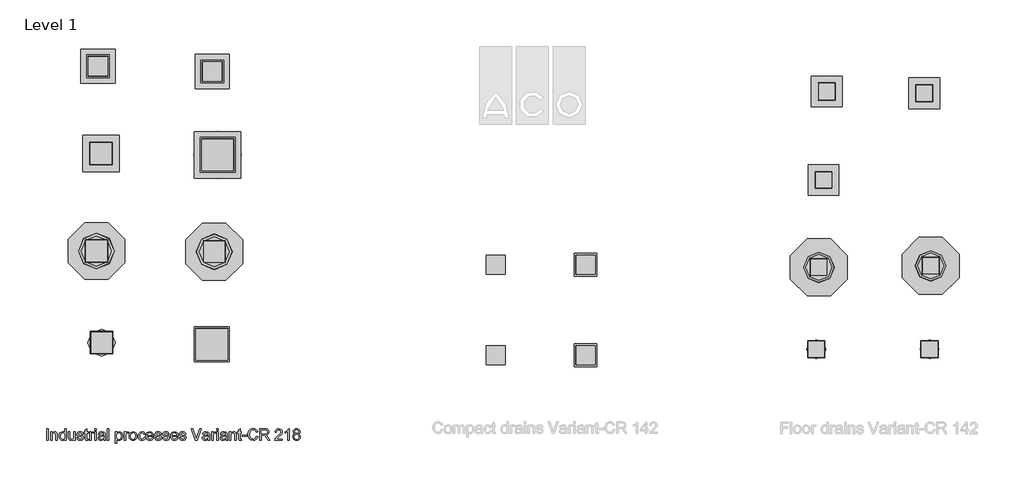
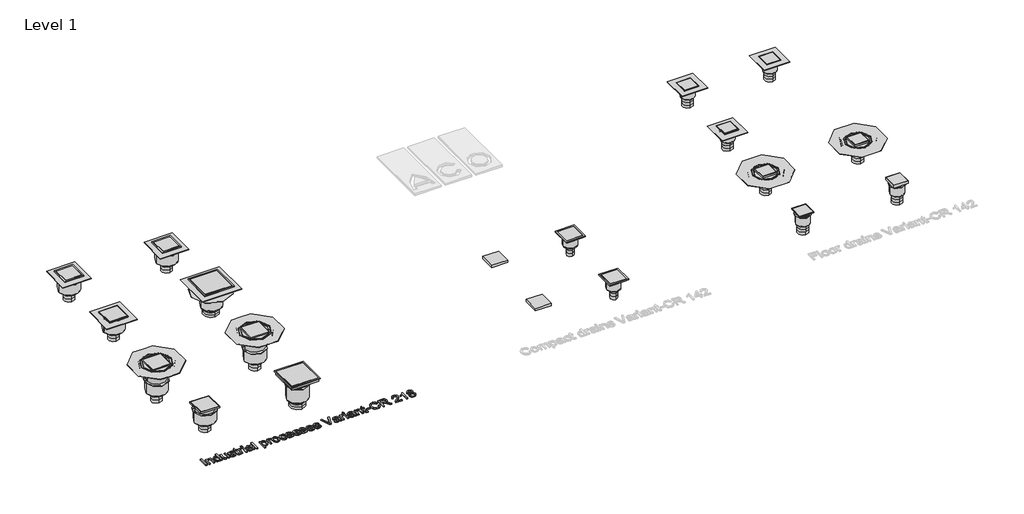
# One storey, part 1 of 2: 38 sanitary terminals, 1 proxy.
"""IFC4 building model written with IfcOpenShell, lengths in millimetres."""

from ifc_helpers import new_model, si_unit, origin, origin_with_axes, place, context, project, spatial, polyline, outline, extrude, transform, mapped, element, save
from components import std_nested_e5b45800, std_nested_f98b17df, std_nested_5ceb5ad1, std_nested_ddfe541a, std_nested_5c42c778, std_nested_f4f34d1d, std_nested_0d080e31, std_nested_b2a49f5a, std_nested_ba9d458a, std_nested_aa14c2f5, std_nested_65d9dade, std_nested_1282a145, std_nested_af68e37f, std_nested_4df2d76e, std_nested_a32fa6b1, std_nested_5476db3b, std_nested_25571da1, std_nested_8932cf48, std_nested_c7e06109

model = new_model("IFC4")

# Units and contexts
model_context = context("Model", 3, world=origin())
ifc_project = project(units=[si_unit("LENGTHUNIT", "METRE", prefix="MILLI")], contexts=[model_context])

# Site, building, storey
site = spatial("IfcSite", under=ifc_project)
building = spatial("IfcBuilding", under=site)
storey = spatial("IfcBuildingStorey", under=building, Name="Level 1", Elevation=0.0)

# Proxy
placement = place(None, origin())
element("IfcBuildingElementProxy", 1, Name="100mm ACO", ObjectType="100mm ACO", at=placement, inside=storey, context=model_context, shape_type="SweptSolid", body=[
    extrude(outline(polyline([(-2101.6641327, -5750.0432082), (-2114.7028622, -5750.0432082), (-2114.7028622, -5649.4587229), (-2101.6641327, -5649.4587229), (-2101.6641327, -5750.0432082)])), origin_with_axes(), (0.0, 0.0, 1.0), 10.0),
    extrude(outline(polyline([(-2019.7064039, -5750.0432082), (-2032.7451335, -5750.0432082), (-2032.7451335, -5704.815115), (-2036.6305585, -5689.1278935), (-2047.4428085, -5684.8495603), (-2057.5274509, -5687.5853652), (-2064.2796502, -5695.2980066), (-2066.2732952, -5709.3844912), (-2066.2732952, -5750.0432082), (-2079.3120248, -5750.0432082), (-2079.3120248, -5677.3988577), (-2068.1359709, -5677.3988577), (-2068.1359709, -5687.4980523), (-2058.1822979, -5678.5193735), (-2044.8525252, -5675.5361821), (-2033.4145325, -5677.6025879), (-2024.5668232, -5683.7872531), (-2020.5358766, -5692.5767539), (-2019.7064039, -5705.193471), (-2019.7064039, -5750.0432082)])), origin_with_axes(), (0.0, 0.0, 1.0), 10.0),
    extrude(outline(polyline([(-1941.4740264, -5750.0432082), (-1954.512756, -5750.0432082), (-1954.512756, -5741.8357936), (-1962.9166247, -5749.3883613), (-1974.3618934, -5751.9058839), (-1986.2982974, -5749.2501158), (-1996.0882587, -5741.2828118), (-2002.6258137, -5729.080831), (-2004.8049986, -5713.721033), (-2002.7167646, -5697.8882899), (-1996.4520625, -5685.7808981), (-1986.7603282, -5678.0973611), (-1974.3909977, -5675.5361821), (-1963.040318, -5677.8354223), (-1954.7746948, -5684.7331431), (-1954.512756, -5649.4587229), (-1941.4740264, -5649.4587229), (-1941.4740264, -5750.0432082)]), holes=[polyline([(-1972.8484695, -5742.5925056), (-1965.7542946, -5740.8753515), (-1959.8388442, -5735.7238891), (-1955.844278, -5727.0799099), (-1954.512756, -5714.8852052), (-1959.3877274, -5692.9987663), (-1965.321368, -5686.8868618), (-1973.372347, -5684.8495603), (-1981.3651173, -5686.8432054), (-1987.1241321, -5692.8241405), (-1991.7662691, -5713.7501373), (-1989.2632987, -5729.5974325), (-1982.278265, -5739.3328232), (-1972.8484695, -5742.5925056)])]), origin_with_axes(), (0.0, 0.0, 1.0), 10.0),
    extrude(outline(polyline([(-1863.2416489, -5750.0432082), (-1874.4177029, -5750.0432082), (-1874.4177029, -5739.4783447), (-1884.7206276, -5748.7989991), (-1897.7593572, -5751.9058839), (-1911.962259, -5748.3697106), (-1920.6644468, -5738.6343198), (-1922.8472699, -5722.539638), (-1922.8472699, -5677.3988577), (-1909.8085403, -5677.3988577), (-1909.8085403, -5718.6105566), (-1908.9063068, -5732.7843541), (-1904.191409, -5739.8275964), (-1895.1108652, -5742.5925056), (-1882.2904179, -5737.6447734), (-1877.7828884, -5730.0485492), (-1876.2803785, -5717.1553412), (-1876.2803785, -5677.3988577), (-1863.2416489, -5677.3988577), (-1863.2416489, -5750.0432082)])), origin_with_axes(), (0.0, 0.0, 1.0), 10.0),
    extrude(outline(polyline([(-1803.636028, -5697.8882899), (-1808.4527908, -5688.1092427), (-1819.5851883, -5684.8495603), (-1830.9649724, -5687.6435738), (-1835.3015141, -5695.7636755), (-1832.4347399, -5702.9524393), (-1818.9157892, -5706.8524165), (-1801.0894011, -5711.0434367), (-1791.9943052, -5717.4027278), (-1788.7346228, -5728.797064), (-1790.7573721, -5737.7793808), (-1796.8256201, -5745.2264454), (-1806.2772439, -5750.2360242), (-1818.4501203, -5751.9058839), (-1830.9977147, -5750.501601), (-1840.4675286, -5746.2887526), (-1846.8668382, -5739.2746146), (-1850.2029194, -5729.4664631), (-1837.1641898, -5727.6911004), (-1831.5325064, -5738.8817064), (-1818.4501203, -5742.5925056), (-1806.0807898, -5738.7361849), (-1801.7733524, -5729.3500459), (-1803.7087888, -5723.3400065), (-1808.5401038, -5719.9493547), (-1822.2045759, -5717.038924), (-1835.4579498, -5713.7937937), (-1843.2615421, -5709.1807611), (-1848.3402437, -5696.5203875), (-1846.4593779, -5688.1856415), (-1840.8167803, -5681.4589085), (-1831.9945372, -5677.0168637), (-1820.5747347, -5675.5361821), (-1808.5728461, -5676.8313237), (-1799.5759772, -5680.7167487), (-1793.5841279, -5687.185181), (-1790.5972984, -5696.2293444), (-1803.636028, -5697.8882899)])), origin_with_axes(), (0.0, 0.0, 1.0), 10.0),
    extrude(outline(polyline([(-1747.7557584, -5751.061859), (-1756.8945108, -5751.9058839), (-1768.5507858, -5749.0100053), (-1773.0182969, -5741.6611678), (-1773.8332175, -5729.2627329), (-1773.8332175, -5686.712236), (-1783.1465958, -5686.712236), (-1783.1465958, -5677.3988577), (-1773.8332175, -5677.3988577), (-1773.8332175, -5658.946727), (-1760.794488, -5651.3213985), (-1760.794488, -5677.3988577), (-1749.618434, -5677.3988577), (-1749.618434, -5686.712236), (-1760.794488, -5686.712236), (-1760.794488, -5731.8821206), (-1759.7467329, -5740.1477438), (-1754.4206447, -5742.5925056), (-1749.3564953, -5742.5925056), (-1747.7557584, -5751.061859)])), origin_with_axes(), (0.0, 0.0, 1.0), 10.0),
    extrude(outline(polyline([(-1697.4635157, -5678.3884041), (-1701.5381187, -5686.712236), (-1710.094785, -5684.8495603), (-1715.9229225, -5686.4866776), (-1720.135771, -5691.3980294), (-1723.5409749, -5709.7337429), (-1723.5409749, -5750.0432082), (-1736.5797045, -5750.0432082), (-1736.5797045, -5677.3988577), (-1725.4036505, -5677.3988577), (-1725.4036505, -5688.1674513), (-1718.433169, -5678.6939994), (-1709.9492635, -5675.5361821), (-1697.4635157, -5678.3884041)])), origin_with_axes(), (0.0, 0.0, 1.0), 10.0),
    extrude(outline(polyline([(-1676.9740835, -5662.4974525), (-1690.0128131, -5662.4974525), (-1690.0128131, -5649.4587229), (-1676.9740835, -5649.4587229), (-1676.9740835, -5662.4974525)])), origin_with_axes(), (0.0, 0.0, 1.0), 10.0),
    extrude(outline(polyline([(-1676.9740835, -5750.0432082), (-1690.0128131, -5750.0432082), (-1690.0128131, -5677.3988577), (-1676.9740835, -5677.3988577), (-1676.9740835, -5750.0432082)])), origin_with_axes(), (0.0, 0.0, 1.0), 10.0),
    extrude(outline(polyline([(-1595.0163548, -5750.0432082), (-1608.0550843, -5750.0432082), (-1611.7804356, -5741.2537075), (-1624.3462202, -5749.2428398), (-1637.8869991, -5751.9058839), (-1647.9316231, -5750.4506685), (-1655.59697, -5746.0850224), (-1660.4537512, -5739.3328232), (-1662.0726783, -5730.7179483), (-1660.4864936, -5722.3613741), (-1655.7279394, -5715.6273651), (-1647.0475798, -5710.7050991), (-1633.6959789, -5707.7837543), (-1622.2870905, -5706.0374959), (-1611.7804356, -5703.4763169), (-1612.1151352, -5695.3998716), (-1614.0651237, -5690.4957959), (-1619.2602426, -5686.4066408), (-1628.8937682, -5684.8495603), (-1641.0448164, -5688.0073776), (-1647.1712731, -5699.7509656), (-1660.2100026, -5698.1502287), (-1656.6338109, -5688.2838686), (-1649.9216301, -5681.2115219), (-1640.0807363, -5676.955017), (-1627.1184055, -5675.5361821), (-1607.7494891, -5679.421607), (-1600.153265, -5688.7931939), (-1598.7417061, -5702.923335), (-1598.7417061, -5719.5418944), (-1598.1887242, -5739.9149093), (-1595.0163548, -5750.0432082)]), holes=[polyline([(-1611.7804356, -5717.4463843), (-1611.7804356, -5712.7896951), (-1635.1948507, -5718.1448876), (-1645.5741742, -5722.2267667), (-1649.0339487, -5730.5142182), (-1645.3085974, -5739.1873017), (-1634.5691081, -5742.5925056), (-1618.6636043, -5736.8880614), (-1613.5012278, -5729.17542), (-1611.7804356, -5717.4463843)])]), origin_with_axes(), (0.0, 0.0, 1.0), 10.0),
    extrude(outline(polyline([(-1567.0762199, -5750.0432082), (-1580.1149495, -5750.0432082), (-1580.1149495, -5649.4587229), (-1567.0762199, -5649.4587229), (-1567.0762199, -5750.0432082)])), origin_with_axes(), (0.0, 0.0, 1.0), 10.0),
    extrude(outline(polyline([(-1496.1635757, -5686.1592541), (-1487.657842, -5678.1919501), (-1475.9215301, -5675.5361821), (-1463.5230953, -5678.1410175), (-1454.0350912, -5685.955524), (-1448.0104996, -5697.9537746), (-1446.0023024, -5713.1098425), (-1448.2724384, -5729.0917451), (-1455.0828462, -5741.4137812), (-1465.196593, -5749.2828582), (-1477.3767455, -5751.9058839), (-1487.8106396, -5749.7667173), (-1495.9452934, -5743.3492176), (-1496.2945451, -5777.983343), (-1509.3332747, -5777.983343), (-1509.3332747, -5677.3988577), (-1496.2945451, -5677.3988577), (-1496.1635757, -5686.1592541)]), holes=[polyline([(-1478.8028565, -5742.5925056), (-1470.984712, -5740.7552962), (-1464.6436111, -5735.2436681), (-1460.4416768, -5726.0940015), (-1459.041032, -5713.342677), (-1460.3907442, -5701.1952668), (-1464.439881, -5692.2275022), (-1470.5918039, -5686.6940458), (-1478.2498747, -5684.8495603), (-1486.1771603, -5686.905052), (-1492.5546416, -5693.0715271), (-1496.756576, -5702.5122367), (-1498.1572207, -5714.390432), (-1496.8147846, -5726.5742226), (-1492.7874761, -5735.4182939), (-1486.6064489, -5740.7989527), (-1478.8028565, -5742.5925056)])]), origin_with_axes(), (0.0, 0.0, 1.0), 10.0),
    extrude(outline(polyline([(-1391.9847085, -5678.3884041), (-1396.0593115, -5686.712236), (-1404.6159777, -5684.8495603), (-1410.4441152, -5686.4866776), (-1414.6569637, -5691.3980294), (-1418.0621676, -5709.7337429), (-1418.0621676, -5750.0432082), (-1431.1008972, -5750.0432082), (-1431.1008972, -5677.3988577), (-1419.9248433, -5677.3988577), (-1419.9248433, -5688.1674513), (-1412.9543617, -5678.6939994), (-1404.4704562, -5675.5361821), (-1391.9847085, -5678.3884041)])), origin_with_axes(), (0.0, 0.0, 1.0), 10.0),
    extrude(outline(polyline([(-1354.7602997, -5675.5361821), (-1341.5069258, -5677.9445635), (-1330.7346942, -5685.1697077), (-1323.5859488, -5696.8332588), (-1321.2030336, -5712.5568607), (-1323.7824028, -5730.9362306), (-1331.5205105, -5742.9999659), (-1342.4891962, -5749.6794044), (-1354.7602997, -5751.9058839), (-1367.4243113, -5749.6175577), (-1378.291132, -5742.7525793), (-1385.7673009, -5730.9180404), (-1388.2593572, -5713.721033), (-1385.8509757, -5696.9060195), (-1378.6258315, -5684.9950819), (-1367.8426857, -5677.900907), (-1354.7602997, -5675.5361821)]), holes=[polyline([(-1354.7602997, -5742.5925056), (-1345.9016762, -5740.5733943), (-1339.4659863, -5734.5160604), (-1334.2417632, -5713.255364), (-1335.7188068, -5700.9005857), (-1340.1499375, -5692.0092199), (-1346.7566152, -5686.6394752), (-1354.7602997, -5684.8495603), (-1362.9204198, -5686.6649415), (-1369.4725269, -5692.1110849), (-1373.7836024, -5701.1516103), (-1375.2206276, -5713.7501373), (-1373.7581361, -5726.3050077), (-1369.3706618, -5735.330981), (-1362.7930884, -5740.7771244), (-1354.7602997, -5742.5925056)])]), origin_with_axes(), (0.0, 0.0, 1.0), 10.0),
    extrude(outline(polyline([(-1244.8333318, -5725.4500687), (-1248.8861066, -5737.324626), (-1256.0966986, -5745.5320406), (-1265.4755616, -5750.3124231), (-1276.033149, -5751.9058839), (-1290.4325049, -5749.3010484), (-1301.150166, -5741.4865419), (-1307.8077763, -5729.3718741), (-1310.0269797, -5713.8665545), (-1304.9628302, -5691.0487777), (-1292.2879045, -5679.0141467), (-1276.2950878, -5675.5361821), (-1265.6829298, -5676.9586551), (-1256.7224412, -5681.2260741), (-1250.1485059, -5688.2511262), (-1246.6960074, -5697.9464985), (-1259.734737, -5699.7509656), (-1265.6720157, -5688.5894638), (-1276.1495662, -5684.8495603), (-1285.1573493, -5686.7449783), (-1291.6912662, -5692.4312323), (-1295.6640041, -5701.5154142), (-1296.9882501, -5713.6046157), (-1295.6603661, -5725.9048235), (-1291.6767141, -5735.0399379), (-1285.1900916, -5740.7043637), (-1276.3532964, -5742.5925056), (-1263.6783706, -5737.9358165), (-1257.8720614, -5723.9657491), (-1244.8333318, -5725.4500687)])), origin_with_axes(), (0.0, 0.0, 1.0), 10.0),
    extrude(outline(polyline([(-1174.0516569, -5716.5150464), (-1228.0692509, -5716.5150464), (-1225.9846549, -5727.7056525), (-1221.2442909, -5735.898515), (-1214.4229689, -5740.9190079), (-1206.095499, -5742.5925056), (-1194.3519111, -5738.8817064), (-1187.0903865, -5727.6911004), (-1174.0516569, -5729.2045243), (-1178.4536834, -5738.8817064), (-1185.431441, -5746.0268138), (-1194.7302671, -5750.4361164), (-1206.095499, -5751.9058839), (-1220.7677079, -5749.3847233), (-1231.8382587, -5741.8212415), (-1238.79055, -5729.8921136), (-1241.1079805, -5714.2740148), (-1238.8742249, -5698.6450019), (-1232.1729582, -5686.2756714), (-1221.4116407, -5678.2210544), (-1206.9977326, -5675.5361821), (-1191.688867, -5679.0141467), (-1179.1885671, -5690.8595997), (-1175.3358845, -5701.4572056), (-1174.0516569, -5716.5150464)]), holes=[polyline([(-1187.0903865, -5707.2016682), (-1189.1858966, -5696.9860564), (-1193.959003, -5690.0883356), (-1207.3178799, -5684.8495603), (-1215.2196993, -5686.4066408), (-1221.5789904, -5691.077882), (-1228.0692509, -5707.2016682), (-1187.0903865, -5707.2016682)])]), origin_with_axes(), (0.0, 0.0, 1.0), 10.0),
    extrude(outline(polyline([(-1118.1713873, -5697.8882899), (-1122.9881501, -5688.1092427), (-1134.1205476, -5684.8495603), (-1145.5003317, -5687.6435738), (-1149.8368734, -5695.7636755), (-1146.9700992, -5702.9524393), (-1133.4511485, -5706.8524165), (-1115.6247604, -5711.0434367), (-1106.5296645, -5717.4027278), (-1103.2699821, -5728.797064), (-1105.2927314, -5737.7793808), (-1111.3609795, -5745.2264454), (-1120.8126032, -5750.2360242), (-1132.9854796, -5751.9058839), (-1145.533074, -5750.501601), (-1155.0028879, -5746.2887526), (-1161.4021975, -5739.2746146), (-1164.7382787, -5729.4664631), (-1151.6995491, -5727.6911004), (-1146.0678657, -5738.8817064), (-1132.9854796, -5742.5925056), (-1120.6161491, -5738.7361849), (-1116.3087117, -5729.3500459), (-1118.2441481, -5723.3400065), (-1123.0754631, -5719.9493547), (-1136.7399352, -5717.038924), (-1149.9933091, -5713.7937937), (-1157.7969014, -5709.1807611), (-1162.875603, -5696.5203875), (-1160.9947372, -5688.1856415), (-1155.3521396, -5681.4589085), (-1146.5298965, -5677.0168637), (-1135.110094, -5675.5361821), (-1123.1082054, -5676.8313237), (-1114.1113365, -5680.7167487), (-1108.1194873, -5687.185181), (-1105.1326577, -5696.2293444), (-1118.1713873, -5697.8882899)])), origin_with_axes(), (0.0, 0.0, 1.0), 10.0),
    extrude(outline(polyline([(-1049.2523881, -5697.8882899), (-1054.0691509, -5688.1092427), (-1065.2015484, -5684.8495603), (-1076.5813325, -5687.6435738), (-1080.9178742, -5695.7636755), (-1078.0511, -5702.9524393), (-1064.5321493, -5706.8524165), (-1046.7057612, -5711.0434367), (-1037.6106653, -5717.4027278), (-1034.3509829, -5728.797064), (-1036.3737322, -5737.7793808), (-1042.4419803, -5745.2264454), (-1051.893604, -5750.2360242), (-1064.0664804, -5751.9058839), (-1076.6140748, -5750.501601), (-1086.0838887, -5746.2887526), (-1092.4831983, -5739.2746146), (-1095.8192795, -5729.4664631), (-1082.7805499, -5727.6911004), (-1077.1488665, -5738.8817064), (-1064.0664804, -5742.5925056), (-1051.6971499, -5738.7361849), (-1047.3897125, -5729.3500459), (-1049.3251489, -5723.3400065), (-1054.1564639, -5719.9493547), (-1067.820936, -5717.038924), (-1081.0743099, -5713.7937937), (-1088.8779022, -5709.1807611), (-1093.9566038, -5696.5203875), (-1092.075738, -5688.1856415), (-1086.4331404, -5681.4589085), (-1077.6108973, -5677.0168637), (-1066.1910948, -5675.5361821), (-1054.1892062, -5676.8313237), (-1045.1923373, -5680.7167487), (-1039.2004881, -5687.185181), (-1036.2136585, -5696.2293444), (-1049.2523881, -5697.8882899)])), origin_with_axes(), (0.0, 0.0, 1.0), 10.0),
    extrude(outline(polyline([(-957.9812811, -5716.5150464), (-1011.998875, -5716.5150464), (-1009.914279, -5727.7056525), (-1005.173915, -5735.898515), (-998.352593, -5740.9190079), (-990.0251232, -5742.5925056), (-978.2815353, -5738.8817064), (-971.0200106, -5727.6911004), (-957.9812811, -5729.2045243), (-962.3833075, -5738.8817064), (-969.3610651, -5746.0268138), (-978.6598913, -5750.4361164), (-990.0251232, -5751.9058839), (-1004.697332, -5749.3847233), (-1015.7678828, -5741.8212415), (-1022.7201742, -5729.8921136), (-1025.0376046, -5714.2740148), (-1022.803849, -5698.6450019), (-1016.1025823, -5686.2756714), (-1005.3412648, -5678.2210544), (-990.9273567, -5675.5361821), (-975.6184912, -5679.0141467), (-963.1181913, -5690.8595997), (-959.2655086, -5701.4572056), (-957.9812811, -5716.5150464)]), holes=[polyline([(-971.0200106, -5707.2016682), (-973.1155208, -5696.9860564), (-977.8886271, -5690.0883356), (-991.2475041, -5684.8495603), (-999.1493235, -5686.4066408), (-1005.5086146, -5691.077882), (-1011.998875, -5707.2016682), (-971.0200106, -5707.2016682)])]), origin_with_axes(), (0.0, 0.0, 1.0), 10.0),
    extrude(outline(polyline([(-902.1010114, -5697.8882899), (-906.9177743, -5688.1092427), (-918.0501717, -5684.8495603), (-929.4299558, -5687.6435738), (-933.7664976, -5695.7636755), (-930.8997233, -5702.9524393), (-917.3807727, -5706.8524165), (-899.5543846, -5711.0434367), (-890.4592886, -5717.4027278), (-887.1996062, -5728.797064), (-889.2223556, -5737.7793808), (-895.2906036, -5745.2264454), (-904.7422273, -5750.2360242), (-916.9151038, -5751.9058839), (-929.4626982, -5750.501601), (-938.9325121, -5746.2887526), (-945.3318216, -5739.2746146), (-948.6679028, -5729.4664631), (-935.6291732, -5727.6911004), (-929.9974898, -5738.8817064), (-916.9151038, -5742.5925056), (-904.5457732, -5738.7361849), (-900.2383358, -5729.3500459), (-902.1737722, -5723.3400065), (-907.0050872, -5719.9493547), (-920.6695594, -5717.038924), (-933.9229332, -5713.7937937), (-941.7265256, -5709.1807611), (-946.8052271, -5696.5203875), (-944.9243613, -5688.1856415), (-939.2817638, -5681.4589085), (-930.4595207, -5677.0168637), (-919.0397182, -5675.5361821), (-907.0378295, -5676.8313237), (-898.0409606, -5680.7167487), (-892.0491114, -5687.185181), (-889.0622819, -5696.2293444), (-902.1010114, -5697.8882899)])), origin_with_axes(), (0.0, 0.0, 1.0), 10.0),
    extrude(outline(polyline([(-753.0869591, -5649.4587229), (-790.8061411, -5750.0432082), (-806.6388842, -5750.0432082), (-844.3580662, -5649.4587229), (-830.5335203, -5649.4587229), (-804.0194965, -5722.5687423), (-798.7225126, -5738.9835715), (-793.3964244, -5722.5687423), (-766.911505, -5649.4587229), (-753.0869591, -5649.4587229)])), origin_with_axes(), (0.0, 0.0, 1.0), 10.0),
    extrude(outline(polyline([(-678.579933, -5750.0432082), (-691.6186625, -5750.0432082), (-695.3440138, -5741.2537075), (-707.9097984, -5749.2428398), (-721.4505773, -5751.9058839), (-731.4952013, -5750.4506685), (-739.1605482, -5746.0850224), (-744.0173294, -5739.3328232), (-745.6362565, -5730.7179483), (-744.0500718, -5722.3613741), (-739.2915176, -5715.6273651), (-730.611158, -5710.7050991), (-717.2595571, -5707.7837543), (-705.8506687, -5706.0374959), (-695.3440138, -5703.4763169), (-695.6787134, -5695.3998716), (-697.6287019, -5690.4957959), (-702.8238208, -5686.4066408), (-712.4573464, -5684.8495603), (-724.6083946, -5688.0073776), (-730.7348513, -5699.7509656), (-743.7735808, -5698.1502287), (-740.1973891, -5688.2838686), (-733.4852083, -5681.2115219), (-723.6443145, -5676.955017), (-710.6819837, -5675.5361821), (-691.3130673, -5679.421607), (-683.7168432, -5688.7931939), (-682.3052843, -5702.923335), (-682.3052843, -5719.5418944), (-681.7523024, -5739.9149093), (-678.579933, -5750.0432082)]), holes=[polyline([(-695.3440138, -5717.4463843), (-695.3440138, -5712.7896951), (-718.7584289, -5718.1448876), (-729.1377524, -5722.2267667), (-732.5975269, -5730.5142182), (-728.8721756, -5739.1873017), (-718.1326863, -5742.5925056), (-702.2271825, -5736.8880614), (-697.064806, -5729.17542), (-695.3440138, -5717.4463843)])]), origin_with_axes(), (0.0, 0.0, 1.0), 10.0),
    extrude(outline(polyline([(-624.562339, -5678.3884041), (-628.636942, -5686.712236), (-637.1936083, -5684.8495603), (-643.0217458, -5686.4866776), (-647.2345942, -5691.3980294), (-650.6397981, -5709.7337429), (-650.6397981, -5750.0432082), (-663.6785277, -5750.0432082), (-663.6785277, -5677.3988577), (-652.5024738, -5677.3988577), (-652.5024738, -5688.1674513), (-645.5319922, -5678.6939994), (-637.0480867, -5675.5361821), (-624.562339, -5678.3884041)])), origin_with_axes(), (0.0, 0.0, 1.0), 10.0),
    extrude(outline(polyline([(-604.0729068, -5750.0432082), (-617.1116364, -5750.0432082), (-617.1116364, -5677.3988577), (-604.0729068, -5677.3988577), (-604.0729068, -5750.0432082)])), origin_with_axes(), (0.0, 0.0, 1.0), 10.0),
    extrude(outline(polyline([(-604.0729068, -5662.4974525), (-617.1116364, -5662.4974525), (-617.1116364, -5649.4587229), (-604.0729068, -5649.4587229), (-604.0729068, -5662.4974525)])), origin_with_axes(), (0.0, 0.0, 1.0), 10.0),
    extrude(outline(polyline([(-522.115178, -5750.0432082), (-535.1539076, -5750.0432082), (-538.8792589, -5741.2537075), (-551.4450435, -5749.2428398), (-564.9858224, -5751.9058839), (-575.0304464, -5750.4506685), (-582.6957932, -5746.0850224), (-587.5525745, -5739.3328232), (-589.1715016, -5730.7179483), (-587.5853168, -5722.3613741), (-582.8267626, -5715.6273651), (-574.146403, -5710.7050991), (-560.7948021, -5707.7837543), (-549.3859138, -5706.0374959), (-538.8792589, -5703.4763169), (-539.2139584, -5695.3998716), (-541.163947, -5690.4957959), (-546.3590658, -5686.4066408), (-555.9925915, -5684.8495603), (-568.1436397, -5688.0073776), (-574.2700963, -5699.7509656), (-587.3088259, -5698.1502287), (-583.7326342, -5688.2838686), (-577.0204533, -5681.2115219), (-567.1795595, -5676.955017), (-554.2172287, -5675.5361821), (-534.8483124, -5679.421607), (-527.2520882, -5688.7931939), (-525.8405293, -5702.923335), (-525.8405293, -5719.5418944), (-525.2875475, -5739.9149093), (-522.115178, -5750.0432082)]), holes=[polyline([(-538.8792589, -5717.4463843), (-538.8792589, -5712.7896951), (-562.293674, -5718.1448876), (-572.6729975, -5722.2267667), (-576.132772, -5730.5142182), (-572.4074207, -5739.1873017), (-561.6679314, -5742.5925056), (-545.7624275, -5736.8880614), (-540.6000511, -5729.17542), (-538.8792589, -5717.4463843)])]), origin_with_axes(), (0.0, 0.0, 1.0), 10.0),
    extrude(outline(polyline([(-447.6081519, -5750.0432082), (-460.6468814, -5750.0432082), (-460.6468814, -5704.815115), (-464.5323064, -5689.1278935), (-475.3445565, -5684.8495603), (-485.4291989, -5687.5853652), (-492.1813982, -5695.2980066), (-494.1750432, -5709.3844912), (-494.1750432, -5750.0432082), (-507.2137728, -5750.0432082), (-507.2137728, -5677.3988577), (-496.0377189, -5677.3988577), (-496.0377189, -5687.4980523), (-486.0840458, -5678.5193735), (-472.7542732, -5675.5361821), (-461.3162805, -5677.6025879), (-452.4685711, -5683.7872531), (-448.4376246, -5692.5767539), (-447.6081519, -5705.193471), (-447.6081519, -5750.0432082)])), origin_with_axes(), (0.0, 0.0, 1.0), 10.0),
    extrude(outline(polyline([(-401.0412605, -5751.061859), (-410.1800129, -5751.9058839), (-421.8362879, -5749.0100053), (-426.3037991, -5741.6611678), (-427.1187197, -5729.2627329), (-427.1187197, -5686.712236), (-436.4320979, -5686.712236), (-436.4320979, -5677.3988577), (-427.1187197, -5677.3988577), (-427.1187197, -5658.946727), (-414.0799901, -5651.3213985), (-414.0799901, -5677.3988577), (-402.9039362, -5677.3988577), (-402.9039362, -5686.712236), (-414.0799901, -5686.712236), (-414.0799901, -5731.8821206), (-413.032235, -5740.1477438), (-407.7061468, -5742.5925056), (-402.6419974, -5742.5925056), (-401.0412605, -5751.061859)])), origin_with_axes(), (0.0, 0.0, 1.0), 10.0),
    extrude(outline(polyline([(-356.3370448, -5716.5150464), (-395.4532335, -5716.5150464), (-395.4532335, -5707.2016682), (-356.3370448, -5707.2016682), (-356.3370448, -5716.5150464)])), origin_with_axes(), (0.0, 0.0, 1.0), 10.0),
    extrude(outline(polyline([(-257.6152351, -5718.0284704), (-263.5634279, -5732.9407898), (-272.7349227, -5743.5092913), (-284.5912898, -5749.8067357), (-298.5940995, -5751.9058839), (-319.6219614, -5748.0277349), (-334.0431456, -5736.3932882), (-342.3815296, -5719.3017838), (-345.1609909, -5699.0524622), (-341.8976704, -5677.5407412), (-332.1077091, -5661.2605194), (-317.1881137, -5651.0121653), (-298.5358909, -5647.5960472), (-285.1442716, -5649.4187045), (-273.8408863, -5654.8866762), (-265.1205083, -5663.8689929), (-259.4779108, -5676.2346854), (-272.5166404, -5679.2615334), (-282.4266569, -5663.9090114), (-299.0306641, -5658.7721012), (-313.3354311, -5661.4969919), (-323.7111165, -5669.6716642), (-330.0194751, -5682.4302648), (-332.1222613, -5698.9069406), (-329.8957818, -5717.3772615), (-323.2163433, -5730.4123531), (-312.9570751, -5738.1504607), (-299.9911063, -5740.7298299), (-289.3607581, -5739.1036268), (-280.9277851, -5734.2250173), (-274.6921873, -5726.0794494), (-270.6539647, -5714.6523708), (-257.6152351, -5718.0284704)])), origin_with_axes(), (0.0, 0.0, 1.0), 10.0),
    extrude(outline(polyline([(-152.8397296, -5750.0432082), (-167.9157607, -5750.0432082), (-186.7899038, -5720.0075633), (-194.6044103, -5710.8251544), (-202.3752603, -5706.2848825), (-212.0087859, -5705.3389925), (-227.8124247, -5705.3389925), (-227.8124247, -5750.0432082), (-240.8511543, -5750.0432082), (-240.8511543, -5649.4587229), (-196.4670859, -5649.4587229), (-181.2018769, -5650.608343), (-170.4041789, -5655.439658), (-163.2590715, -5664.723932), (-160.7561011, -5676.5257285), (-162.5823964, -5686.6358372), (-168.0612822, -5694.5558467), (-176.9817523, -5700.1329596), (-189.1328005, -5703.2143781), (-179.4192381, -5710.7451176), (-170.3023139, -5722.4814294), (-152.8397296, -5750.0432082)]), holes=[polyline([(-227.8124247, -5694.1629386), (-198.8827434, -5694.1629386), (-185.0145411, -5692.6786189), (-176.8507829, -5686.901414), (-173.7948307, -5677.2533362), (-178.8735323, -5665.4806439), (-185.6002653, -5661.8462436), (-195.623061, -5660.6347768), (-227.8124247, -5660.6347768), (-227.8124247, -5694.1629386)])]), origin_with_axes(), (0.0, 0.0, 1.0), 10.0),
    extrude(outline(polyline([(-41.5448593, -5750.0432082), (-108.6011828, -5750.0432082), (-102.6056956, -5734.3559867), (-80.4573179, -5712.6150693), (-62.5872733, -5695.1815893), (-56.58451, -5686.1010455), (-54.5835888, -5676.9622931), (-60.0406464, -5663.9235635), (-73.8215358, -5658.7721012), (-87.9371248, -5663.9090114), (-92.2300101, -5670.315597), (-93.6997776, -5679.2615334), (-106.7385072, -5677.8645266), (-103.5806898, -5665.6916502), (-96.4937911, -5656.763904), (-86.2199707, -5651.2850182), (-73.5013885, -5649.4587229), (-60.0661127, -5651.557871), (-49.9705562, -5657.8553155), (-43.6512835, -5667.1213993), (-41.5448593, -5678.1264654), (-43.3056698, -5688.0874145), (-48.5881016, -5698.179333), (-76.1789847, -5725.857529), (-91.8371019, -5740.7298299), (-41.5448593, -5740.7298299), (-41.5448593, -5750.0432082)])), origin_with_axes(), (0.0, 0.0, 1.0), 10.0),
    extrude(outline(polyline([(19.9234373, -5750.0432082), (6.8847077, -5750.0432082), (6.8847077, -5671.8108307), (-17.3300758, -5686.712236), (-17.3300758, -5677.3988577), (1.0492942, -5665.6116133), (12.4727347, -5651.3213985), (19.9234373, -5651.3213985), (19.9234373, -5750.0432082)])), origin_with_axes(), (0.0, 0.0, 1.0), 10.0),
    extrude(outline(polyline([(97.9229803, -5694.8177855), (112.0676736, -5704.5459001), (116.7825713, -5721.0553183), (114.4360366, -5733.1336058), (107.3964323, -5743.0581745), (96.6751332, -5749.6939565), (83.2835139, -5751.9058839), (69.7936675, -5749.6794044), (59.0687304, -5742.9999659), (52.0618684, -5732.9589799), (49.7262478, -5720.647858), (54.9359188, -5703.7237035), (61.0478232, -5697.9137562), (68.9641948, -5694.9487549), (57.329748, -5687.4471197), (53.4515991, -5674.8085744), (55.4961767, -5664.8730915), (61.6299094, -5656.7202475), (71.074257, -5651.274104), (83.0506794, -5649.4587229), (95.2053657, -5651.3323127), (104.7770447, -5656.953082), (110.9871762, -5665.2296193), (113.05722, -5675.0705131), (109.2736601, -5687.2070092), (97.9229803, -5694.8177855)]), holes=[polyline([(83.2835139, -5690.4375873), (95.2017276, -5686.0137326), (100.0184904, -5674.9249916), (95.1289669, -5663.4433425), (83.1379923, -5658.7721012), (71.2052264, -5663.3705817), (66.4903287, -5674.2264882), (71.3361958, -5686.0719412), (83.2835139, -5690.4375873)]), polyline([(83.3126182, -5742.5925056), (91.3235787, -5741.115462), (97.893876, -5736.6843313), (102.2813503, -5729.8884756), (103.7438418, -5721.3172571), (102.2413319, -5712.7096583), (97.7338023, -5705.8046614), (91.0580019, -5701.2643895), (83.0506794, -5699.7509656), (74.8760072, -5701.311684), (68.3966608, -5705.9938394), (62.7649774, -5721.026214), (64.2165547, -5729.4519109), (68.5712866, -5736.3932882), (75.1597741, -5741.0427012), (83.3126182, -5742.5925056)])]), origin_with_axes(), (0.0, 0.0, 1.0), 10.0),
])

# Sanitary terminals
std_nested_shape = std_nested_e5b45800(model_context)
element("IfcSanitaryTerminal", 2, ObjectType="ZZZ_do not use_PF_SS_WPB_gratings Compact drain_CR 142_ACO : std(nested)", at=placement, inside=storey, context=model_context, shape_type="MappedRepresentation", body=[
    mapped(std_nested_shape, transform((1832.5607421, -5003.3735408, 0.0), x_axis=(1.0, 0.0, 0.0), y_axis=(0.0, 1.0, 0.0), z_axis=(0.0, 0.0, 1.0))),
])
element("IfcSanitaryTerminal", 3, ObjectType="ZZZ_do not use_PF_SS_WPB_gratings Compact drain_CR 142_ACO : std(nested)", at=placement, inside=storey, context=model_context, shape_type="MappedRepresentation", body=[
    mapped(std_nested_shape, transform((2622.9607421, -5003.3735408, 0.0), x_axis=(1.0, 0.0, 0.0), y_axis=(0.0, 1.0, 0.0), z_axis=(0.0, 0.0, 1.0))),
])
element("IfcSanitaryTerminal", 4, ObjectType="ZZZ_do not use_PF_SS_WPB_gratings Compact drain_CR 142_ACO : std(nested)", at=placement, inside=storey, context=model_context, shape_type="MappedRepresentation", body=[
    mapped(std_nested_shape, transform((1832.5607421, -4208.1735408, 0.0), x_axis=(1.0, 0.0, 0.0), y_axis=(0.0, 1.0, 0.0), z_axis=(0.0, 0.0, 1.0))),
])
element("IfcSanitaryTerminal", 5, ObjectType="ZZZ_do not use_PF_SS_WPB_gratings Compact drain_CR 142_ACO : std(nested)", at=placement, inside=storey, context=model_context, shape_type="MappedRepresentation", body=[
    mapped(std_nested_shape, transform((2622.9607421, -4208.1735408, 0.0), x_axis=(1.0, 0.0, 0.0), y_axis=(0.0, 1.0, 0.0), z_axis=(0.0, 0.0, 1.0))),
])
std_nested_2_shape = std_nested_f98b17df(model_context)
element("IfcSanitaryTerminal", 6, ObjectType="ZZZ_do not use_PF_ST_WPB upper part_CR 142_ACO : std(nested)", at=placement, inside=storey, context=model_context, shape_type="MappedRepresentation", body=[
    mapped(std_nested_2_shape, transform((-1675.9628908, -4087.1709954, -143.5), x_axis=(1.0, 0.0, 0.0), y_axis=(0.0, 1.0, 0.0), z_axis=(0.0, 0.0, 1.0))),
])
element("IfcSanitaryTerminal", 7, ObjectType="ZZZ_do not use_PF_ST_WPB upper part_CR 142_ACO : std(nested)", at=placement, inside=storey, context=model_context, shape_type="MappedRepresentation", body=[
    mapped(std_nested_2_shape, transform((-641.1588001, -4093.7203884, -143.5), x_axis=(1.0, 0.0, 0.0), y_axis=(0.0, 1.0, 0.0), z_axis=(0.0, 0.0, 1.0))),
])
std_nested_3_shape = std_nested_5ceb5ad1(model_context)
element("IfcSanitaryTerminal", 8, ObjectType="ZZZ_do not use_PF_ST_WPB_bonded sealing grating_CR 218_ACO : std(nested)", at=placement, inside=storey, context=model_context, shape_type="MappedRepresentation", body=[
    mapped(std_nested_3_shape, transform((-1675.9628908, -4087.1709954, 0.0), x_axis=(1.0, 0.0, 0.0), y_axis=(0.0, 1.0, 0.0), z_axis=(0.0, 0.0, 1.0))),
])
element("IfcSanitaryTerminal", 9, ObjectType="ZZZ_do not use_PF_ST_WPB_bonded sealing grating_CR 218_ACO : std(nested)", at=placement, inside=storey, context=model_context, shape_type="MappedRepresentation", body=[
    mapped(std_nested_3_shape, transform((-641.1588001, -4093.7203884, 0.0), x_axis=(1.0, 0.0, 0.0), y_axis=(0.0, 1.0, 0.0), z_axis=(0.0, 0.0, 1.0))),
])
std_nested_4_shape = std_nested_ddfe541a(model_context)
element("IfcSanitaryTerminal", 10, ObjectType="ZZZ_do not use_PF_ST_WPB_drain body fixed height gully Compact drain_CR 142_ACO : std(nested)", at=placement, inside=storey, context=model_context, shape_type="MappedRepresentation", body=[
    mapped(std_nested_4_shape, transform((2622.9299222, -5003.3735408, -25.0), x_axis=(1.0, 0.0, 0.0), y_axis=(0.0, 1.0, 0.0), z_axis=(0.0, 0.0, 1.0))),
])
element("IfcSanitaryTerminal", 11, ObjectType="ZZZ_do not use_PF_ST_WPB_drain body fixed height gully Compact drain_CR 142_ACO : std(nested)", at=placement, inside=storey, context=model_context, shape_type="MappedRepresentation", body=[
    mapped(std_nested_4_shape, transform((2622.9299222, -4208.1735408, -25.0), x_axis=(1.0, 0.0, 0.0), y_axis=(0.0, 1.0, 0.0), z_axis=(0.0, 0.0, 1.0))),
])
std_nested_5_shape = std_nested_5c42c778(model_context)
element("IfcSanitaryTerminal", 12, ObjectType="ZZZ_do not use_PF_ST_WPB_floor drain composite sealing_CR 142_ACO : std(nested)", at=placement, inside=storey, context=model_context, shape_type="MappedRepresentation", body=[
    mapped(std_nested_5_shape, transform((4673.6816216, -4231.0703531, 0.0), x_axis=(1.0, 0.0, 0.0), y_axis=(0.0, 1.0, 0.0), z_axis=(0.0, 0.0, 1.0))),
])
element("IfcSanitaryTerminal", 13, ObjectType="ZZZ_do not use_PF_ST_WPB_floor drain composite sealing_CR 142_ACO : std(nested)", at=placement, inside=storey, context=model_context, shape_type="MappedRepresentation", body=[
    mapped(std_nested_5_shape, transform((5656.0905685, -4217.9715672, 0.0), x_axis=(1.0, 0.0, 0.0), y_axis=(0.0, 1.0, 0.0), z_axis=(0.0, 0.0, 1.0))),
])
std_nested_6_shape = std_nested_f4f34d1d(model_context)
element("IfcSanitaryTerminal", 14, ObjectType="ZZZ_do not use_PF_ST_WPB_industrial Processes Variant_CR 218_ACO : std(nested)", at=placement, inside=storey, context=model_context, shape_type="MappedRepresentation", body=[
    mapped(std_nested_6_shape, transform((-663.0034316, -4908.2961378, -90.0), x_axis=(-1.0, 0.0, 0.0), y_axis=(0.0, -1.0, 0.0), z_axis=(0.0, 0.0, 1.0))),
])
std_nested_7_shape = std_nested_0d080e31(model_context)
element("IfcSanitaryTerminal", 15, ObjectType="ZZZ_do not use_PF_ST_WPB_industrial Processes Variant_CR 218_ACO : std(nested)", at=placement, inside=storey, context=model_context, shape_type="MappedRepresentation", body=[
    mapped(std_nested_7_shape, transform((-1675.9628908, -4087.1709954, -193.5), x_axis=(-1.0, 0.0, 0.0), y_axis=(0.0, -1.0, 0.0), z_axis=(0.0, 0.0, 1.0))),
])
element("IfcSanitaryTerminal", 16, ObjectType="ZZZ_do not use_PF_ST_WPB_industrial Processes Variant_CR 218_ACO : std(nested)", at=placement, inside=storey, context=model_context, shape_type="MappedRepresentation", body=[
    mapped(std_nested_7_shape, transform((-1635.0268362, -3229.6364199, -40.0), x_axis=(-1.0, 0.0, 0.0), y_axis=(0.0, -1.0, 0.0), z_axis=(0.0, 0.0, 1.0))),
])
element("IfcSanitaryTerminal", 17, ObjectType="ZZZ_do not use_PF_ST_WPB_industrial Processes Variant_CR 218_ACO : std(nested)", at=placement, inside=storey, context=model_context, shape_type="MappedRepresentation", body=[
    mapped(std_nested_7_shape, transform((-1661.9353955, -2463.178491, -55.0), x_axis=(-1.0, 0.0, 0.0), y_axis=(0.0, -1.0, 0.0), z_axis=(0.0, 0.0, 1.0))),
])
element("IfcSanitaryTerminal", 18, ObjectType="ZZZ_do not use_PF_ST_WPB_industrial Processes Variant_CR 218_ACO : std(nested)", at=placement, inside=storey, context=model_context, shape_type="MappedRepresentation", body=[
    mapped(std_nested_7_shape, transform((-1630.5539551, -4892.6453659, -50.0), x_axis=(-1.0, 0.0, 0.0), y_axis=(0.0, -1.0, 0.0), z_axis=(0.0, 0.0, 1.0))),
])
element("IfcSanitaryTerminal", 19, ObjectType="ZZZ_do not use_PF_ST_WPB_industrial Processes Variant_CR 218_ACO : std(nested)", at=placement, inside=storey, context=model_context, shape_type="MappedRepresentation", body=[
    mapped(std_nested_7_shape, transform((-641.1588001, -4093.7203884, -193.5), x_axis=(-1.0, 0.0, 0.0), y_axis=(0.0, -1.0, 0.0), z_axis=(0.0, 0.0, 1.0))),
])
element("IfcSanitaryTerminal", 20, ObjectType="ZZZ_do not use_PF_ST_WPB_industrial Processes Variant_CR 218_ACO : std(nested)", at=placement, inside=storey, context=model_context, shape_type="MappedRepresentation", body=[
    mapped(std_nested_7_shape, transform((-658.2300907, -2508.8821331, -55.0), x_axis=(-1.0, 0.0, 0.0), y_axis=(0.0, -1.0, 0.0), z_axis=(0.0, 0.0, 1.0))),
])
std_nested_8_shape = std_nested_b2a49f5a(model_context)
element("IfcSanitaryTerminal", 21, ObjectType="ZZZ_do not use_PF_ST_WPB_industrial Processes Variant_CR 218_ACO : std(nested)", at=placement, inside=storey, context=model_context, shape_type="MappedRepresentation", body=[
    mapped(std_nested_8_shape, transform((-611.5503577, -3242.7566043, -90.0), x_axis=(-1.0, 0.0, 0.0), y_axis=(0.0, -1.0, 0.0), z_axis=(0.0, 0.0, 1.0))),
])
std_nested_9_shape = std_nested_ba9d458a(model_context)
element("IfcSanitaryTerminal", 22, ObjectType="ZZZ_do not use_PF_ST_WPB_sanded flange floor gratings_CR 142_ACO : std(nested)", at=placement, inside=storey, context=model_context, shape_type="MappedRepresentation", body=[
    mapped(std_nested_9_shape, transform((5600.268158, -2700.0084775, 0.0), x_axis=(1.0, 0.0, 0.0), y_axis=(0.0, 1.0, 0.0), z_axis=(0.0, 0.0, 1.0))),
])
std_nested_10_shape = std_nested_aa14c2f5(model_context)
element("IfcSanitaryTerminal", 23, ObjectType="ZZZ_do not use_PF_ST_WPB_sanded flange floor gratings_CR 142_ACO : std(nested)", at=placement, inside=storey, context=model_context, shape_type="MappedRepresentation", body=[
    mapped(std_nested_10_shape, transform((4741.6427384, -2684.872439, 0.0), x_axis=(1.0, 0.0, 0.0), y_axis=(0.0, 1.0, 0.0), z_axis=(0.0, 0.0, 1.0))),
])
std_nested_11_shape = std_nested_65d9dade(model_context)
element("IfcSanitaryTerminal", 24, ObjectType="ZZZ_do not use_PF_ST_WPB_sanded flange gratings_CR 142_ACO : std(nested)", at=placement, inside=storey, context=model_context, shape_type="MappedRepresentation", body=[
    mapped(std_nested_11_shape, transform((4714.6383237, -3463.205216, 0.0), x_axis=(1.0, 0.0, 0.0), y_axis=(0.0, 1.0, 0.0), z_axis=(0.0, 0.0, 1.0))),
])
std_nested_12_shape = std_nested_1282a145(model_context)
element("IfcSanitaryTerminal", 25, ObjectType="ZZZ_do not use_PF_ST_WPB_sanded floor grating_CR 218_ACO : std(nested)", at=placement, inside=storey, context=model_context, shape_type="MappedRepresentation", body=[
    mapped(std_nested_12_shape, transform((-1661.9353955, -2463.178491, 0.0), x_axis=(1.0, 0.0, 0.0), y_axis=(0.0, 1.0, 0.0), z_axis=(0.0, 0.0, 1.0))),
])
element("IfcSanitaryTerminal", 26, ObjectType="ZZZ_do not use_PF_ST_WPB_sanded floor grating_CR 218_ACO : std(nested)", at=placement, inside=storey, context=model_context, shape_type="MappedRepresentation", body=[
    mapped(std_nested_12_shape, transform((-658.2300907, -2508.8821331, 0.0), x_axis=(1.0, 0.0, 0.0), y_axis=(0.0, 1.0, 0.0), z_axis=(0.0, 0.0, 1.0))),
])
std_nested_13_shape = std_nested_af68e37f(model_context)
element("IfcSanitaryTerminal", 27, ObjectType="ZZZ_do not use_PF_ST_WPB_standard attachment gratings_CR 218_ACO : std(nested)", at=placement, inside=storey, context=model_context, shape_type="MappedRepresentation", body=[
    mapped(std_nested_13_shape, transform((-663.0034316, -4908.2961378, 0.0), x_axis=(1.0, 0.0, 0.0), y_axis=(0.0, 1.0, 0.0), z_axis=(0.0, 0.0, 1.0))),
])
std_nested_14_shape = std_nested_4df2d76e(model_context)
element("IfcSanitaryTerminal", 28, ObjectType="ZZZ_do not use_PF_ST_WPB_standard attachments grating_CR 142_ACO : std(nested)", at=placement, inside=storey, context=model_context, shape_type="MappedRepresentation", body=[
    mapped(std_nested_14_shape, transform((5701.9362901, -4950.899715, 0.0), x_axis=(1.0, 0.0, 0.0), y_axis=(0.0, 1.0, 0.0), z_axis=(0.0, 0.0, 1.0))),
])
std_nested_15_shape = std_nested_a32fa6b1(model_context)
element("IfcSanitaryTerminal", 29, ObjectType="ZZZ_do not use_PF_ST_WPB_standard attachments screwed_CR 142_ACO : std(nested)", at=placement, inside=storey, context=model_context, shape_type="MappedRepresentation", body=[
    mapped(std_nested_15_shape, transform((4706.4285572, -4950.899715, 0.0), x_axis=(1.0, 0.0, 0.0), y_axis=(0.0, 1.0, 0.0), z_axis=(0.0, 0.0, 1.0))),
])
std_nested_16_shape = std_nested_5476db3b(model_context)
element("IfcSanitaryTerminal", 30, ObjectType="ZZZ_do not use_PF_ST_WPB_floor drains variant_CR 142_ACO : std(nested)", at=placement, inside=storey, context=model_context, shape_type="MappedRepresentation", body=[
    mapped(std_nested_16_shape, transform((4673.6816216, -4231.0703531, -40.0), x_axis=(-1.0, 0.0, 0.0), y_axis=(0.0, -1.0, 0.0), z_axis=(0.0, 0.0, 1.0))),
])
element("IfcSanitaryTerminal", 31, ObjectType="ZZZ_do not use_PF_ST_WPB_floor drains variant_CR 142_ACO : std(nested)", at=placement, inside=storey, context=model_context, shape_type="MappedRepresentation", body=[
    mapped(std_nested_16_shape, transform((4650.447236, -4950.899715, -35.0), x_axis=(-1.0, 0.0, 0.0), y_axis=(0.0, -1.0, 0.0), z_axis=(0.0, 0.0, 1.0))),
])
element("IfcSanitaryTerminal", 32, ObjectType="ZZZ_do not use_PF_ST_WPB_floor drains variant_CR 142_ACO : std(nested)", at=placement, inside=storey, context=model_context, shape_type="MappedRepresentation", body=[
    mapped(std_nested_16_shape, transform((5656.0905685, -4217.9715672, -40.0), x_axis=(-1.0, 0.0, 0.0), y_axis=(0.0, -1.0, 0.0), z_axis=(0.0, 0.0, 1.0))),
])
element("IfcSanitaryTerminal", 33, ObjectType="ZZZ_do not use_PF_ST_WPB_floor drains variant_CR 142_ACO : std(nested)", at=placement, inside=storey, context=model_context, shape_type="MappedRepresentation", body=[
    mapped(std_nested_16_shape, transform((5645.9549688, -4950.899715, -50.0), x_axis=(-1.0, 0.0, 0.0), y_axis=(0.0, -1.0, 0.0), z_axis=(0.0, 0.0, 1.0))),
])
element("IfcSanitaryTerminal", 34, ObjectType="ZZZ_do not use_PF_ST_WPB_floor drains variant_CR 142_ACO : std(nested)", at=placement, inside=storey, context=model_context, shape_type="MappedRepresentation", body=[
    mapped(std_nested_16_shape, transform((4714.6383237, -3463.205216, -25.0), x_axis=(-1.0, 0.0, 0.0), y_axis=(0.0, -1.0, 0.0), z_axis=(0.0, 0.0, 1.0))),
])
element("IfcSanitaryTerminal", 35, ObjectType="ZZZ_do not use_PF_ST_WPB_floor drains variant_CR 142_ACO : std(nested)", at=placement, inside=storey, context=model_context, shape_type="MappedRepresentation", body=[
    mapped(std_nested_16_shape, transform((5600.268158, -2700.0084775, -25.0), x_axis=(-1.0, 0.0, 0.0), y_axis=(0.0, -1.0, 0.0), z_axis=(0.0, 0.0, 1.0))),
])
element("IfcSanitaryTerminal", 36, ObjectType="ZZZ_do not use_PF_ST_WPB_floor drains variant_CR 142_ACO : std(nested)", at=placement, inside=storey, context=model_context, shape_type="MappedRepresentation", body=[
    mapped(std_nested_16_shape, transform((4741.6427384, -2684.872439, -25.0), x_axis=(-1.0, 0.0, 0.0), y_axis=(0.0, -1.0, 0.0), z_axis=(0.0, 0.0, 1.0))),
])
std_nested_17_shape = std_nested_25571da1(model_context)
element("IfcSanitaryTerminal", 37, ObjectType="ZZZ_do not use_PF_ST_WPB_sanded flange slotted gratings for Industrial DN100_CR 218_ACO : std(nested)", at=placement, inside=storey, context=model_context, shape_type="MappedRepresentation", body=[
    mapped(std_nested_17_shape, transform((-1635.0268362, -3229.6364199, 0.0), x_axis=(1.0, 0.0, 0.0), y_axis=(0.0, 1.0, 0.0), z_axis=(0.0, 0.0, 1.0))),
])
std_nested_18_shape = std_nested_8932cf48(model_context)
element("IfcSanitaryTerminal", 38, ObjectType="ZZZ_do not use_PF_PE_WPB_standard slotted grate_CR 218_ACO : std(nested)", at=placement, inside=storey, context=model_context, shape_type="MappedRepresentation", body=[
    mapped(std_nested_18_shape, transform((-1630.5539551, -4892.6453659, 0.0), x_axis=(1.0, 0.0, 0.0), y_axis=(0.0, 1.0, 0.0), z_axis=(0.0, 0.0, 1.0))),
])
std_nested_19_shape = std_nested_c7e06109(model_context)
element("IfcSanitaryTerminal", 39, ObjectType="ZZZ_do not use_PF_ST_WPB_sanded flange slotted gratings for Industrial DN150_CR 218_ACO : std(nested)", at=placement, inside=storey, context=model_context, shape_type="MappedRepresentation", body=[
    mapped(std_nested_19_shape, transform((-611.5503577, -3242.7566043, 0.0), x_axis=(1.0, 0.0, 0.0), y_axis=(0.0, 1.0, 0.0), z_axis=(0.0, 0.0, 1.0))),
])

save(model, "model.ifc")
